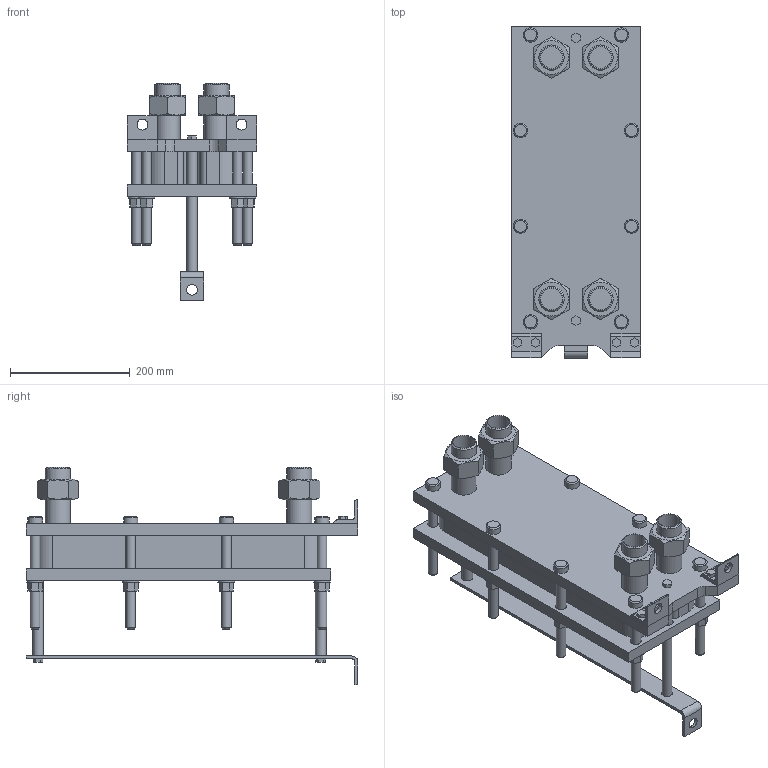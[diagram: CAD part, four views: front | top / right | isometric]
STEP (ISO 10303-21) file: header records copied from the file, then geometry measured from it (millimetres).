
FILE_DESCRIPTION(/* description */ (''),/* implementation_level */ '2;1');
FILE_NAME(/* name */ 'C:\Users\zhuro\Desktop\ENCO\TO\ЭН-004\ЭН-0,5-004-18-1.stp',/* time_stamp */ '2022-06-06T10:45:03+03:00',/* author */ ('zhuro'),/* organization */ (''),/* preprocessor_version */ 'ST-DEVELOPER v18.1',/* originating_system */ 'Autodesk Inventor 2022',/* authorisation */ '');
FILE_SCHEMA (('AUTOMOTIVE_DESIGN { 1 0 10303 214 3 1 1 }'));
Length unit declared in the file: millimetre
Products named in the file (1): ЭН-0,5-004-18-1
Bounding box: 216 x 555 x 363.4 mm (x, y, z)
Volume: 9651444.3 mm3; surface area: 1079962.5 mm2
Topology: 40 solids, 40 shells, 403 faces, 865 edges, 574 vertices
Faces by surface type: plane 272, cylinder 103, cone 28
Full cylindrical faces by diameter (mm): 10 x4, 16 x16, 18 x29, 20 x2, 24 x8, 28 x8, 36.3 x5, 42.3 x9
Entity records: 11137 total; most frequent: CARTESIAN_POINT 1939, DIRECTION 1879, ORIENTED_EDGE 1730, EDGE_CURVE 865, AXIS2_PLACEMENT_3D 658, VERTEX_POINT 574, LINE 563, VECTOR 563
